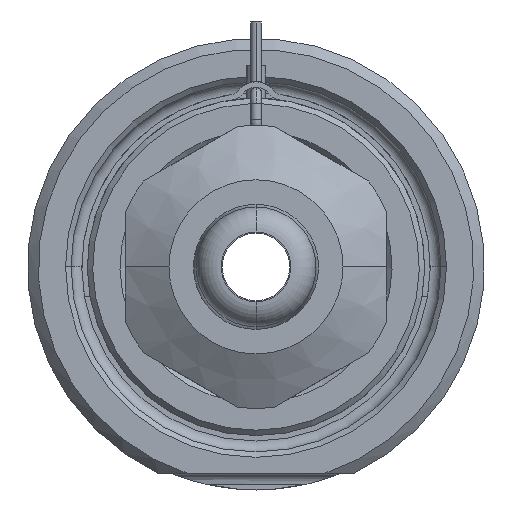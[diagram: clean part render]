
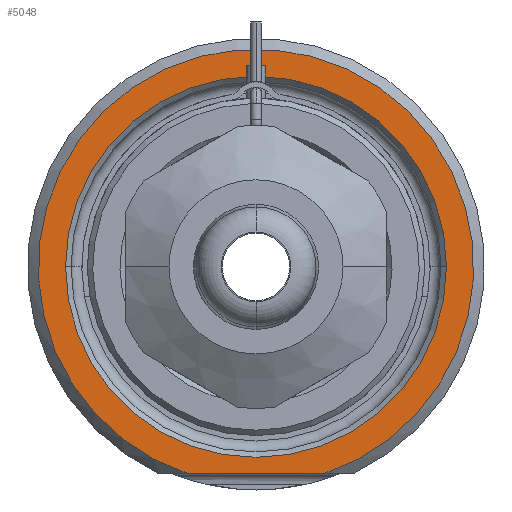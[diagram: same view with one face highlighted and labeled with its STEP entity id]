
A CAD part, front view. The second image highlights one B-rep face of the part: STEP entity #5048.
In plain terms, the highlighted planar face has unit normal (0, -1, 0).
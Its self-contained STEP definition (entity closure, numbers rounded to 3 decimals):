
#1536=DIRECTION('',(1.,0.,0.));
#1537=VECTOR('',#1536,12.49);
#1538=CARTESIAN_POINT('',(-6.245,0.,-19.));
#1539=LINE('',#1538,#1537);
#1540=CARTESIAN_POINT('',(0.,0.,0.));
#1541=DIRECTION('',(0.,1.,0.));
#1542=DIRECTION('',(-1.,0.,0.));
#1543=AXIS2_PLACEMENT_3D('',#1540,#1541,#1542);
#1545=CARTESIAN_POINT('',(0.,0.,0.));
#1546=DIRECTION('',(0.,1.,0.));
#1547=DIRECTION('',(1.,0.,0.));
#1548=AXIS2_PLACEMENT_3D('',#1545,#1546,#1547);
#1654=CARTESIAN_POINT('',(0.,0.,0.));
#1655=DIRECTION('',(0.,-1.,0.));
#1656=DIRECTION('',(0.312,0.,-0.95));
#1657=AXIS2_PLACEMENT_3D('',#1654,#1655,#1656);
#2748=CARTESIAN_POINT('',(-17.5,0.,0.));
#2749=CARTESIAN_POINT('',(17.5,0.,0.));
#2750=VERTEX_POINT('',#2748);
#2751=VERTEX_POINT('',#2749);
#2792=CARTESIAN_POINT('',(-6.245,0.,-19.));
#2793=CARTESIAN_POINT('',(6.245,0.,-19.));
#2794=VERTEX_POINT('',#2792);
#2795=VERTEX_POINT('',#2793);
#5032=CARTESIAN_POINT('',(0.,0.,0.));
#5033=DIRECTION('',(0.,-1.,0.));
#5034=DIRECTION('',(1.,0.,0.));
#5035=AXIS2_PLACEMENT_3D('',#5032,#5033,#5034);
#5036=PLANE('',#5035);
#5038=ORIENTED_EDGE('',*,*,#5037,.F.);
#5040=ORIENTED_EDGE('',*,*,#5039,.F.);
#5041=EDGE_LOOP('',(#5038,#5040));
#5042=FACE_OUTER_BOUND('',#5041,.F.);
#5043=ORIENTED_EDGE('',*,*,#5022,.F.);
#5045=ORIENTED_EDGE('',*,*,#5044,.F.);
#5046=EDGE_LOOP('',(#5043,#5045));
#5047=FACE_BOUND('',#5046,.F.);
#5048=ADVANCED_FACE('',(#5042,#5047),#5036,.T.);
#1544=CIRCLE('',#1543,17.5);
#1549=CIRCLE('',#1548,17.5);
#1658=CIRCLE('',#1657,20.);
#5022=EDGE_CURVE('',#2750,#2751,#1544,.T.);
#5037=EDGE_CURVE('',#2794,#2795,#1539,.T.);
#5039=EDGE_CURVE('',#2795,#2794,#1658,.T.);
#5044=EDGE_CURVE('',#2751,#2750,#1549,.T.);
